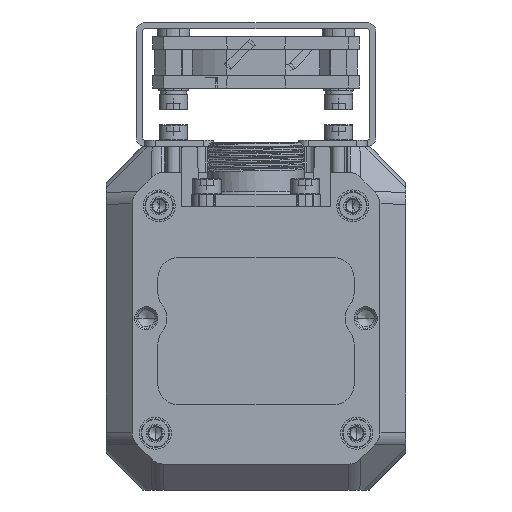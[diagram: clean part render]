
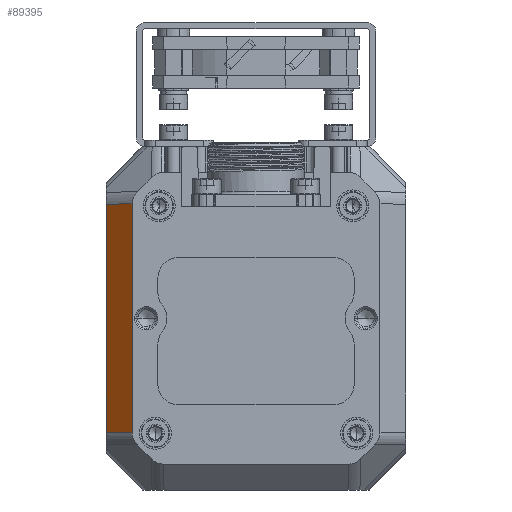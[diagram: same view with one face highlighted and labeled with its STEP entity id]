
A CAD part, front view. The second image highlights one B-rep face of the part: STEP entity #89395.
In plain terms, the highlighted planar face has unit normal (-0.707, -0.707, 0).
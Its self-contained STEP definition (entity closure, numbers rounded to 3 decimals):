
#17281=CARTESIAN_POINT('',(-24.,-435.,-55.435));
#17289=DIRECTION('',(0.707,-0.707,-0.02));
#17290=VECTOR('',#17289,7.072);
#17291=CARTESIAN_POINT('',(-29.,-430.,-55.297));
#17292=LINE('',#17291,#17290);
#17293=DIRECTION('',(0.,0.,-1.));
#17294=VECTOR('',#17293,44.094);
#17295=CARTESIAN_POINT('',(-29.,-430.,-11.203));
#17296=LINE('',#17295,#17294);
#17297=DIRECTION('',(-0.707,0.707,-0.02));
#17298=VECTOR('',#17297,7.072);
#17299=CARTESIAN_POINT('',(-24.,-435.,-11.065));
#17300=LINE('',#17299,#17298);
#17301=DIRECTION('',(0.,0.,1.));
#17302=VECTOR('',#17301,44.371);
#17303=CARTESIAN_POINT('',(-24.,-435.,-55.435));
#17304=LINE('',#17303,#17302);
#17315=CARTESIAN_POINT('',(-29.,-430.,-11.203));
#50470=VERTEX_POINT('',#17281);
#50471=CARTESIAN_POINT('',(-24.,-435.,-11.065));
#50472=VERTEX_POINT('',#50471);
#50682=VERTEX_POINT('',#17315);
#50683=CARTESIAN_POINT('',(-29.,-430.,-55.297));
#50684=VERTEX_POINT('',#50683);
#89382=CARTESIAN_POINT('',(-26.5,-432.5,-33.25));
#89383=DIRECTION('',(-0.707,-0.707,0.));
#89384=DIRECTION('',(-0.707,0.707,0.));
#89385=AXIS2_PLACEMENT_3D('',#89382,#89383,#89384);
#89386=PLANE('',#89385);
#89387=ORIENTED_EDGE('',*,*,#89366,.F.);
#89388=ORIENTED_EDGE('',*,*,#67342,.F.);
#89390=ORIENTED_EDGE('',*,*,#89389,.F.);
#89392=ORIENTED_EDGE('',*,*,#89391,.F.);
#89393=EDGE_LOOP('',(#89387,#89388,#89390,#89392));
#89394=FACE_OUTER_BOUND('',#89393,.F.);
#67342=EDGE_CURVE('',#50682,#50684,#17296,.T.);
#89366=EDGE_CURVE('',#50684,#50470,#17292,.T.);
#89389=EDGE_CURVE('',#50472,#50682,#17300,.T.);
#89391=EDGE_CURVE('',#50470,#50472,#17304,.T.);
#89395=ADVANCED_FACE('',(#89394),#89386,.T.);
